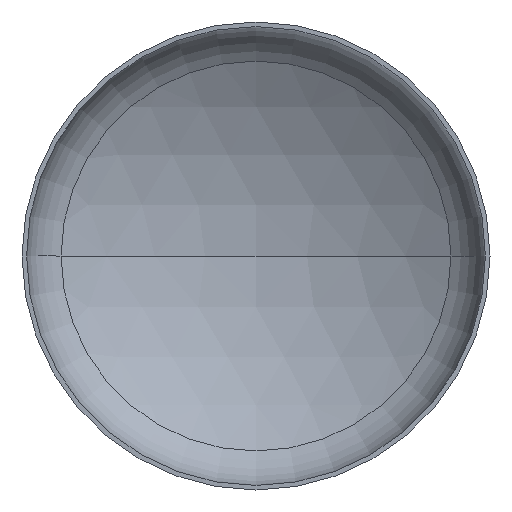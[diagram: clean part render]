
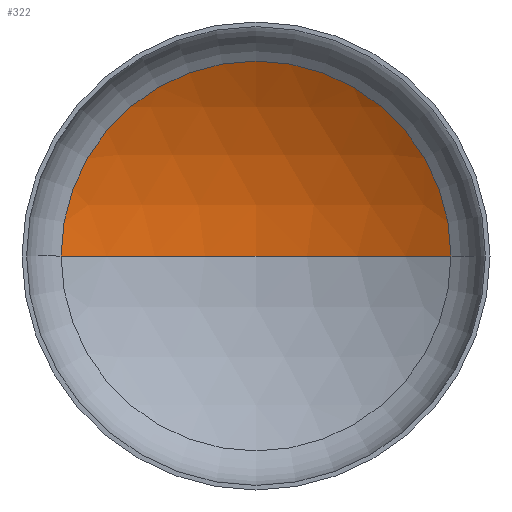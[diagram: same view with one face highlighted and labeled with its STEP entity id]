
A CAD part, front view. The second image highlights one B-rep face of the part: STEP entity #322.
In plain terms, the highlighted spherical face has radius 3040 mm.
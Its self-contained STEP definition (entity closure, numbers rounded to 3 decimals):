
#3 = AXIS2_PLACEMENT_3D ( 'NONE', #378, #156, #90 ) ;
#8 = ORIENTED_EDGE ( 'NONE', *, *, #135, .T. ) ;
#10 = AXIS2_PLACEMENT_3D ( 'NONE', #129, #117, #240 ) ;
#12 = VERTEX_POINT ( 'NONE', #280 ) ;
#13 = ORIENTED_EDGE ( 'NONE', *, *, #353, .F. ) ;
#14 = AXIS2_PLACEMENT_3D ( 'NONE', #359, #402, #205 ) ;
#16 = CARTESIAN_POINT ( 'NONE',  ( 0., 619.484, 0. ) ) ;
#69 = CIRCLE ( 'NONE', #3, 3040. ) ;
#72 = AXIS2_PLACEMENT_3D ( 'NONE', #16, #262, #207 ) ;
#90 = DIRECTION ( 'NONE',  ( 1., 0., 0. ) ) ;
#106 = VERTEX_POINT ( 'NONE', #224 ) ;
#109 = VERTEX_POINT ( 'NONE', #331 ) ;
#117 = DIRECTION ( 'NONE',  ( 0., 0., -1. ) ) ;
#124 = CIRCLE ( 'NONE', #14, 3040. ) ;
#129 = CARTESIAN_POINT ( 'NONE',  ( 0., -1976.125, 0. ) ) ;
#135 = EDGE_CURVE ( 'NONE', #12, #109, #282, .T. ) ;
#156 = DIRECTION ( 'NONE',  ( 0., 0., 1. ) ) ;
#183 = SPHERICAL_SURFACE ( 'NONE', #10, 3040. ) ;
#205 = DIRECTION ( 'NONE',  ( -1., 0., 0. ) ) ;
#207 = DIRECTION ( 'NONE',  ( 1., 0., 0. ) ) ;
#224 = CARTESIAN_POINT ( 'NONE',  ( 0., 1063.875, 0. ) ) ;
#240 = DIRECTION ( 'NONE',  ( -1., 0., 0. ) ) ;
#262 = DIRECTION ( 'NONE',  ( 0., -1., 0. ) ) ;
#280 = CARTESIAN_POINT ( 'NONE',  ( 1582.534, 619.484, 0. ) ) ;
#282 = CIRCLE ( 'NONE', #72, 1582.534 ) ;
#318 = ORIENTED_EDGE ( 'NONE', *, *, #351, .T. ) ;
#322 = ADVANCED_FACE ( 'NONE', ( #380 ), #183, .F. ) ;
#325 = EDGE_LOOP ( 'NONE', ( #13, #318, #8 ) ) ;
#331 = CARTESIAN_POINT ( 'NONE',  ( -1582.534, 619.484, 0. ) ) ;
#351 = EDGE_CURVE ( 'NONE', #106, #12, #124, .T. ) ;
#353 = EDGE_CURVE ( 'NONE', #106, #109, #69, .T. ) ;
#359 = CARTESIAN_POINT ( 'NONE',  ( 0., -1976.125, 0. ) ) ;
#378 = CARTESIAN_POINT ( 'NONE',  ( 0., -1976.125, 0. ) ) ;
#380 = FACE_OUTER_BOUND ( 'NONE', #325, .T. ) ;
#402 = DIRECTION ( 'NONE',  ( 0., 0., -1. ) ) ;
